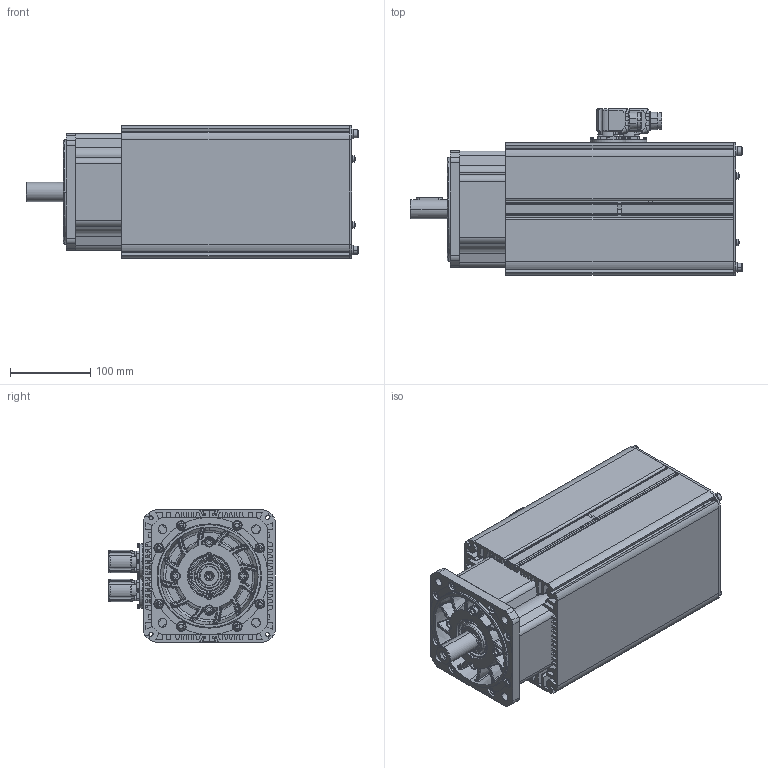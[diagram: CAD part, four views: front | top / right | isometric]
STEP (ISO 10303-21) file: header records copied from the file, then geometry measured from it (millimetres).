
FILE_DESCRIPTION((''),'2;1');
FILE_NAME('69795N-0_SW0001','2019-11-19T',('ruanyongxu'),(''),'PRO/ENGINEER BY PARAMETRIC TECHNOLOGY CORPORATION, 2010430','PRO/ENGINEER BY PARAMETRIC TECHNOLOGY CORPORATION, 2010430','');
FILE_SCHEMA(('CONFIG_CONTROL_DESIGN'));
Products named in the file (1): 69795N-0_SW0001
Bounding box: 413.9 x 208 x 165 mm (x, y, z)
Surface area: 1084353.4 mm2 (no closed solid volume)
Topology: 0 solids, 129 shells, 1767 faces, 5643 edges, 3926 vertices
Faces by surface type: plane 717, cylinder 497, bspline 189, torus 163, cone 153, sphere 48
Entity records: 72221 total; most frequent: CARTESIAN_POINT 23818, DIRECTION 10350, ORIENTED_EDGE 8997, EDGE_CURVE 5641, AXIS2_PLACEMENT_3D 3938, VERTEX_POINT 3926, VECTOR 2474, LINE 2474
